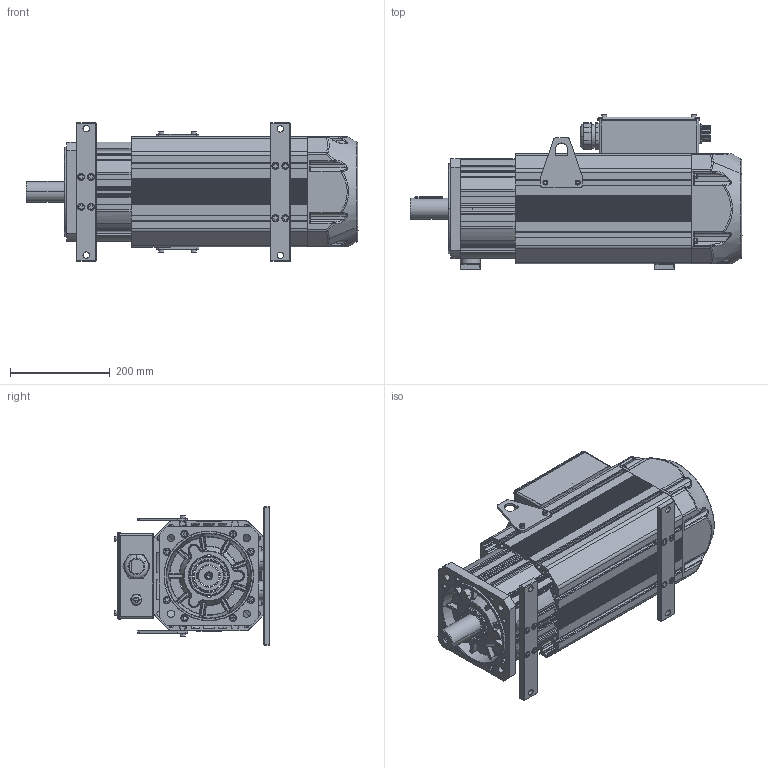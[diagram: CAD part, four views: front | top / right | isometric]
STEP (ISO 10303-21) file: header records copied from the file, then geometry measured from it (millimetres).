
FILE_DESCRIPTION((''),'2;1');
FILE_NAME('20M11D17C-___SW0001','2026-01-24T10:40:28',('admin'),(''),'CREO PARAMETRIC BY PTC INC, 2019080','CREO PARAMETRIC BY PTC INC, 2019080','');
FILE_SCHEMA(('CONFIG_CONTROL_DESIGN'));
Products named in the file (1): 20M11D17C-___SW0001
Bounding box: 667 x 312.5 x 278.25 mm (x, y, z)
Surface area: 1725817.2 mm2 (no closed solid volume)
Topology: 0 solids, 168 shells, 2058 faces, 8325 edges, 6155 vertices
Faces by surface type: cylinder 809, plane 757, torus 199, bspline 157, cone 112, sphere 24
Entity records: 98652 total; most frequent: CARTESIAN_POINT 30245, DIRECTION 14659, ORIENTED_EDGE 12549, EDGE_CURVE 8309, VERTEX_POINT 6155, AXIS2_PLACEMENT_3D 5157, VECTOR 4345, LINE 4345
